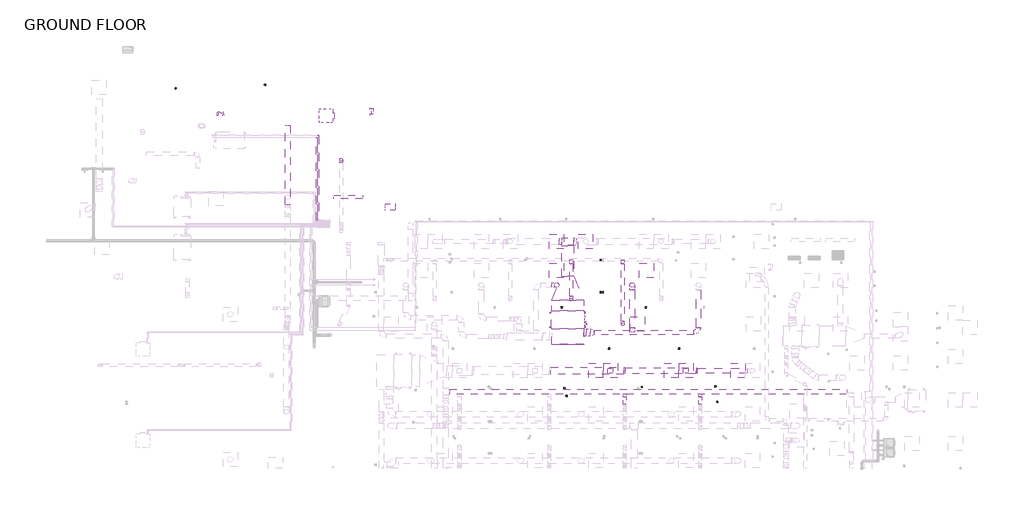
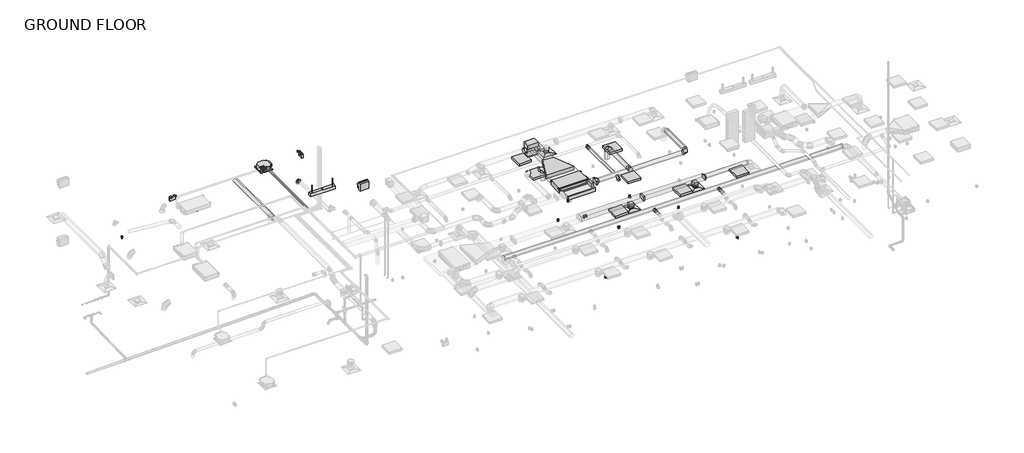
# One storey, part 18 of 22: 26 duct fittings, 24 duct segments, 11 light fixtures, 8 proxies, 4 electric appliances, 4 switching devices, 3 air terminals, 2 pipe fittings, 2 pipe segments.
"""IFC4 building model written with IfcOpenShell, lengths in millimetres."""

from ifc_helpers import new_model, si_unit, point, frame, frame_2d, origin, place, context, project, spatial, polyline, circle_curve, trimmed, segment, composite_curve, outline, extrude, transform, mapped, element, save
from components import air_terminal_e9020785, mechanical_equipment_d478180c, mechanical_equipment_2d84379e, duplex_receptacle_countertop_10251bba, rectangular_elbow_mitered_transition_standard_1af59134, rectangular_endcap_standard_3ad2bc23, rectangular_endcap_standard_fc39317d, rectangular_takeoff_standard_68f80ab3, rectangular_takeoff_standard_d07ea574, rectangular_transition_angle_45_degree_5314cfe0, rectangular_transition_angle_45_degree_4bc87dcf, rectangular_transition_angle_45_degree_1d311e81, rectangular_to_round_transition_angle_45_degree_8ccbb142, rectangular_to_round_transition_angle_45_degree_e9430680, rectangular_to_round_transition_angle_45_degree_5a025447, round_elbow_1_d_a253342a, round_elbow_1_d_c80420c1, round_takeoff_standard_272bb003, round_takeoff_standard_aff246af, round_takeoff_standard_5e8805d5, round_takeoff_standard_98831ccd, round_takeoff_standard_17dc06e3, telephone_outlet_data_plain_18c24199, emergency_wall_light_120v_37438f40, suspended_fluorescent_strip_non_hosted_strip_light_1x4_120v_5197bc21, troffer_corner_insert_2x2_3lamp_e67c7f8f, wall_pack_light_exterior_120v_ab60a804, elbow_generic_standard_738589b0, elbow_generic_standard_371413ad

model = new_model("IFC4")

# Units and contexts
model_context = context("Model", 3, world=origin())
ifc_project = project(units=[si_unit("LENGTHUNIT", "METRE", prefix="MILLI")], contexts=[model_context])

# Site, building, storey
site = spatial("IfcSite", under=ifc_project)
building = spatial("IfcBuilding", under=site)
storey = spatial("IfcBuildingStorey", under=building, Name="GROUND FLOOR", Elevation=30480.0)

# Air terminals
placement = place(None, origin())
air_terminal_shape = air_terminal_e9020785(model_context)
element("IfcAirTerminal", 1, ObjectType="Supply Diffuser - Rectangular Face Round Neck - Hosted : 24\"x24\" Face 8\" Neck - Hosted", at=placement, inside=storey, context=model_context, shape_type="MappedRepresentation", body=[
    mapped(air_terminal_shape, transform((2372.6795393, 1382.1195005, 33223.2), x_axis=(0.0, -1.0, 0.0), y_axis=(-1.0, 0.0, 0.0), z_axis=(0.0, 0.0, -1.0))),
])
element("IfcAirTerminal", 2, ObjectType="Supply Diffuser - Rectangular Face Round Neck - Hosted : 24\"x24\" Face 8\" Neck - Hosted", at=placement, inside=storey, context=model_context, shape_type="MappedRepresentation", body=[
    mapped(air_terminal_shape, transform((5544.5045393, 1382.1195005, 33223.2), x_axis=(0.0, -1.0, 0.0), y_axis=(-1.0, 0.0, 0.0), z_axis=(0.0, 0.0, -1.0))),
])
element("IfcAirTerminal", 3, ObjectType="Supply Diffuser - Rectangular Face Round Neck - Hosted : 24\"x24\" Face 8\" Neck - Hosted", at=placement, inside=storey, context=model_context, shape_type="MappedRepresentation", body=[
    mapped(air_terminal_shape, transform((1334.4545393, 6811.3695005, 33223.2), x_axis=(0.0, -1.0, 0.0), y_axis=(-1.0, 0.0, 0.0), z_axis=(0.0, 0.0, -1.0))),
])

# Proxies
mechanical_equipment_shape = mechanical_equipment_d478180c(model_context)
element("IfcBuildingElementProxy", 4, Name="PEFY-P-NMAU-E_Medium_Static_Ducted : PEFY-P48NMAU-E", ObjectType="PEFY-P-NMAU-E_Medium_Static_Ducted : PEFY-P48NMAU-E", at=placement, inside=storey, context=model_context, shape_type="MappedRepresentation", body=[
    mapped(mechanical_equipment_shape, transform((586.0058148, 3462.779527, 33788.35), x_axis=(1.0, 0.0, 0.0), y_axis=(0.0, 1.0, 0.0), z_axis=(0.0, 0.0, 1.0))),
])
mechanical_equipment_2_shape = mechanical_equipment_2d84379e(model_context)
element("IfcBuildingElementProxy", 5, Name="PLFY-P-NCMU-E_4-way_24x24 : PLFY-P12NCMU-E", ObjectType="PLFY-P-NCMU-E_4-way_24x24 : PLFY-P12NCMU-E", at=placement, inside=storey, context=model_context, shape_type="MappedRepresentation", body=[
    mapped(mechanical_equipment_2_shape, transform((-9643.7370237, 12098.6958297, 33020.0), x_axis=(0.0, -1.0, 0.0), y_axis=(-1.0, 0.0, 0.0), z_axis=(0.0, 0.0, -1.0))),
])
duplex_receptacle_countertop_shape = duplex_receptacle_countertop_10251bba(model_context)
element("IfcBuildingElementProxy", 6, Name="Duplex Receptacle : Countertop", ObjectType="Duplex Receptacle : Countertop", at=placement, inside=storey, context=model_context, shape_type="MappedRepresentation", body=[
    mapped(duplex_receptacle_countertop_shape, transform((2067.8795393, 4677.7695005, 30937.2), x_axis=(0.0, 1.0, 0.0), y_axis=(0.0, 0.0, 1.0), z_axis=(1.0, 0.0, 0.0))),
])
element("IfcBuildingElementProxy", 7, Name="Duplex Receptacle : Countertop", ObjectType="Duplex Receptacle : Countertop", at=placement, inside=storey, context=model_context, shape_type="MappedRepresentation", body=[
    mapped(duplex_receptacle_countertop_shape, transform((1944.0545393, 4677.7695005, 30937.2), x_axis=(0.0, -1.0, 0.0), y_axis=(0.0, 0.0, 1.0), z_axis=(-1.0, 0.0, 0.0))),
])
element("IfcBuildingElementProxy", 8, Name="Duplex Receptacle : Standard", ObjectType="Duplex Receptacle : Standard", at=placement, inside=storey, context=model_context, shape_type="MappedRepresentation", body=[
    mapped(duplex_receptacle_countertop_shape, transform((6887.5295393, 71.4994744, 30937.2), x_axis=(0.0, 1.0, 0.0), y_axis=(0.0, 0.0, 1.0), z_axis=(1.0, 0.0, 0.0))),
])
element("IfcBuildingElementProxy", 9, Name="Duplex Receptacle : Standard", ObjectType="Duplex Receptacle : Standard", at=placement, inside=storey, context=model_context, shape_type="MappedRepresentation", body=[
    mapped(duplex_receptacle_countertop_shape, transform((6763.7045393, 721.6502033, 30937.2), x_axis=(0.0, -1.0, 0.0), y_axis=(0.0, 0.0, 1.0), z_axis=(-1.0, 0.0, 0.0))),
])
element("IfcBuildingElementProxy", 10, Name="Duplex Receptacle : Standard", ObjectType="Duplex Receptacle : Standard", at=placement, inside=storey, context=model_context, shape_type="MappedRepresentation", body=[
    mapped(duplex_receptacle_countertop_shape, transform((420.0545393, 644.5136762, 30937.2), x_axis=(0.0, -1.0, 0.0), y_axis=(0.0, 0.0, 1.0), z_axis=(-1.0, 0.0, 0.0))),
])
element("IfcBuildingElementProxy", 11, Name="Duplex Receptacle : Standard", ObjectType="Duplex Receptacle : Standard", at=placement, inside=storey, context=model_context, shape_type="MappedRepresentation", body=[
    mapped(duplex_receptacle_countertop_shape, transform((543.8795393, 322.3410962, 30937.2), x_axis=(0.0, 1.0, 0.0), y_axis=(0.0, 0.0, 1.0), z_axis=(1.0, 0.0, 0.0))),
])

# Duct fittings
rectangular_elbow_mitered_transition_standard_shape = rectangular_elbow_mitered_transition_standard_1af59134(model_context)
element("IfcDuctFitting", 12, ObjectType="Rectangular Elbow - Mitered - Transition : Standard", at=placement, inside=storey, context=model_context, shape_type="MappedRepresentation", body=[
    mapped(rectangular_elbow_mitered_transition_standard_shape, transform((575.9935718, 6811.3695005, 33934.4), x_axis=(0.0, 1.0, 0.0), y_axis=(0.0, 0.0, -1.0), z_axis=(-1.0, 0.0, 0.0))),
])
rectangular_endcap_standard_shape = rectangular_endcap_standard_3ad2bc23(model_context)
element("IfcDuctFitting", 13, ObjectType="Rectangular Endcap : Standard", at=placement, inside=storey, context=model_context, shape_type="MappedRepresentation", body=[
    mapped(rectangular_endcap_standard_shape, transform((575.9935718, 2491.3229089, 33947.89375), x_axis=(0.0, -1.0, 0.0), y_axis=(1.0, 0.0, 0.0), z_axis=(0.0, 0.0, 1.0))),
])
rectangular_endcap_standard_2_shape = rectangular_endcap_standard_fc39317d(model_context)
element("IfcDuctFitting", 14, ObjectType="Rectangular Endcap : Standard", at=placement, inside=storey, context=model_context, shape_type="MappedRepresentation", body=[
    mapped(rectangular_endcap_standard_2_shape, transform((575.9935718, 6811.3695005, 33426.4), x_axis=(0.0, 0.0, -1.0), y_axis=(1.0, 0.0, 0.0), z_axis=(0.0, -1.0, 0.0))),
])
rectangular_takeoff_standard_shape = rectangular_takeoff_standard_68f80ab3(model_context)
element("IfcDuctFitting", 15, ObjectType="Rectangular Takeoff : Standard", at=placement, inside=storey, context=model_context, shape_type="MappedRepresentation", body=[
    mapped(rectangular_takeoff_standard_shape, transform((1253.8560718, 2984.6075456, 33947.89375), x_axis=(1.0, 0.0, 0.0), y_axis=(0.0, -1.0, 0.0), z_axis=(0.0, 0.0, -1.0))),
])
rectangular_takeoff_standard_2_shape = rectangular_takeoff_standard_d07ea574(model_context)
element("IfcDuctFitting", 16, ObjectType="Rectangular Takeoff : Standard", at=placement, inside=storey, context=model_context, shape_type="MappedRepresentation", body=[
    mapped(rectangular_takeoff_standard_2_shape, transform((5544.5045393, 1382.1195005, 33502.6), x_axis=(0.0, 0.0, -1.0), y_axis=(1.0, 0.0, 0.0), z_axis=(0.0, -1.0, 0.0))),
])
element("IfcDuctFitting", 17, ObjectType="Rectangular Takeoff : Standard", at=placement, inside=storey, context=model_context, shape_type="MappedRepresentation", body=[
    mapped(rectangular_takeoff_standard_2_shape, transform((2372.6795393, 1382.1195005, 33502.6), x_axis=(0.0, 0.0, -1.0), y_axis=(1.0, 0.0, 0.0), z_axis=(0.0, -1.0, 0.0))),
])
rectangular_transition_angle_45_degree_shape = rectangular_transition_angle_45_degree_5314cfe0(model_context)
element("IfcDuctFitting", 18, ObjectType="Rectangular Transition - Angle : 45 Degree", at=placement, inside=storey, context=model_context, shape_type="MappedRepresentation", body=[
    mapped(rectangular_transition_angle_45_degree_shape, transform((575.9935718, 4334.7022191, 33934.4), x_axis=(0.0, 1.0, 0.0), y_axis=(-1.0, 0.0, 0.0), z_axis=(0.0, 0.0, 1.0))),
])
rectangular_transition_angle_45_degree_2_shape = rectangular_transition_angle_45_degree_4bc87dcf(model_context)
element("IfcDuctFitting", 19, ObjectType="Rectangular Transition - Angle : 45 Degree", at=placement, inside=storey, context=model_context, shape_type="MappedRepresentation", body=[
    mapped(rectangular_transition_angle_45_degree_2_shape, transform((575.9935718, 3891.404527, 33934.4), x_axis=(0.0, 1.0, 0.0), y_axis=(-1.0, 0.0, 0.0), z_axis=(0.0, 0.0, 1.0))),
])
rectangular_transition_angle_45_degree_3_shape = rectangular_transition_angle_45_degree_1d311e81(model_context)
element("IfcDuctFitting", 20, ObjectType="Rectangular Transition - Angle : 45 Degree", at=placement, inside=storey, context=model_context, shape_type="MappedRepresentation", body=[
    mapped(rectangular_transition_angle_45_degree_3_shape, transform((2934.6545393, 1382.1195005, 33604.2), x_axis=(1.0, 0.0, 0.0), y_axis=(0.0, 1.0, 0.0), z_axis=(0.0, 0.0, 1.0))),
])
rectangular_to_round_transition_angle_45_degree_shape = rectangular_to_round_transition_angle_45_degree_8ccbb142(model_context)
element("IfcDuctFitting", 21, ObjectType="Rectangular to Round Transition - Angle : 45 Degree", at=placement, inside=storey, context=model_context, shape_type="MappedRepresentation", body=[
    mapped(rectangular_to_round_transition_angle_45_degree_shape, transform((1530.4019781, 2984.6075456, 33947.89375), x_axis=(1.0, 0.0, 0.0), y_axis=(0.0, 1.0, 0.0), z_axis=(0.0, 0.0, 1.0))),
])
rectangular_to_round_transition_angle_45_degree_2_shape = rectangular_to_round_transition_angle_45_degree_e9430680(model_context)
element("IfcDuctFitting", 22, ObjectType="Rectangular to Round Transition - Angle : 45 Degree", at=placement, inside=storey, context=model_context, shape_type="MappedRepresentation", body=[
    mapped(rectangular_to_round_transition_angle_45_degree_2_shape, transform((5972.1335148, 1382.1195005, 33604.2), x_axis=(1.0, 0.0, 0.0), y_axis=(0.0, 1.0, 0.0), z_axis=(0.0, 0.0, 1.0))),
])
rectangular_to_round_transition_angle_45_degree_3_shape = rectangular_to_round_transition_angle_45_degree_5a025447(model_context)
element("IfcDuctFitting", 23, ObjectType="Rectangular to Round Transition - Angle : 45 Degree", at=placement, inside=storey, context=model_context, shape_type="MappedRepresentation", body=[
    mapped(rectangular_to_round_transition_angle_45_degree_3_shape, transform((5544.5045393, 1382.1195005, 33327.975), x_axis=(0.0, 0.0, -1.0), y_axis=(1.0, 0.0, 0.0), z_axis=(0.0, -1.0, 0.0))),
])
element("IfcDuctFitting", 24, ObjectType="Rectangular to Round Transition - Angle : 45 Degree", at=placement, inside=storey, context=model_context, shape_type="MappedRepresentation", body=[
    mapped(rectangular_to_round_transition_angle_45_degree_3_shape, transform((2372.6795393, 1382.1195005, 33327.975), x_axis=(0.0, 0.0, -1.0), y_axis=(1.0, 0.0, 0.0), z_axis=(0.0, -1.0, 0.0))),
])
round_elbow_1_d_shape = round_elbow_1_d_a253342a(model_context)
element("IfcDuctFitting", 25, ObjectType="Round Elbow : 1 D", at=placement, inside=storey, context=model_context, shape_type="MappedRepresentation", body=[
    mapped(round_elbow_1_d_shape, transform((115.2545393, 4982.5695005, 33947.89375), x_axis=(0.0, 0.0, 1.0), y_axis=(-1.0, 0.0, 0.0), z_axis=(0.0, -1.0, 0.0))),
])
element("IfcDuctFitting", 26, ObjectType="Round Elbow : 1 D", at=placement, inside=storey, context=model_context, shape_type="MappedRepresentation", body=[
    mapped(round_elbow_1_d_shape, transform((3287.0795393, 4982.5695005, 33947.89375), x_axis=(0.0, 0.0, 1.0), y_axis=(0.0, -1.0, 0.0), z_axis=(1.0, 0.0, 0.0))),
])
element("IfcDuctFitting", 27, ObjectType="Round Elbow : 1 D", at=placement, inside=storey, context=model_context, shape_type="MappedRepresentation", body=[
    mapped(round_elbow_1_d_shape, transform((6077.9045393, 2984.6075456, 33947.89375), x_axis=(1.0, 0.0, 0.0), y_axis=(0.0, 1.0, 0.0), z_axis=(0.0, 0.0, 1.0))),
])
round_elbow_1_d_2_shape = round_elbow_1_d_c80420c1(model_context)
element("IfcDuctFitting", 28, ObjectType="Round Elbow : 1 D", at=placement, inside=storey, context=model_context, shape_type="MappedRepresentation", body=[
    mapped(round_elbow_1_d_2_shape, transform((2896.5545393, 3334.7445005, 33464.5), x_axis=(0.0, -1.0, 0.0), y_axis=(0.0, 0.0, -1.0), z_axis=(1.0, 0.0, 0.0))),
])
element("IfcDuctFitting", 29, ObjectType="Round Elbow : 1 D", at=placement, inside=storey, context=model_context, shape_type="MappedRepresentation", body=[
    mapped(round_elbow_1_d_2_shape, transform((724.8545393, 4372.9695005, 33464.5), x_axis=(0.0, -1.0, 0.0), y_axis=(0.0, 0.0, -1.0), z_axis=(1.0, 0.0, 0.0))),
])
element("IfcDuctFitting", 30, ObjectType="Round Elbow : 1 D", at=placement, inside=storey, context=model_context, shape_type="MappedRepresentation", body=[
    mapped(round_elbow_1_d_2_shape, transform((-8950.9579607, 10246.7195005, 33324.8), x_axis=(0.0, 0.0, 1.0), y_axis=(0.0, -1.0, 0.0), z_axis=(1.0, 0.0, 0.0))),
])
round_takeoff_standard_shape = round_takeoff_standard_272bb003(model_context)
element("IfcDuctFitting", 31, ObjectType="Round Takeoff : Standard", at=placement, inside=storey, context=model_context, shape_type="MappedRepresentation", body=[
    mapped(round_takeoff_standard_shape, transform((2982.2795393, 391.7414929, 33528.0), x_axis=(0.0, -1.0, 0.0), y_axis=(-1.0, 0.0, 0.0), z_axis=(0.0, 0.0, -1.0))),
])
element("IfcDuctFitting", 32, ObjectType="Round Takeoff : Standard", at=placement, inside=storey, context=model_context, shape_type="MappedRepresentation", body=[
    mapped(round_takeoff_standard_shape, transform((6154.1045393, 391.7414929, 33528.0), x_axis=(0.0, -1.0, 0.0), y_axis=(-1.0, 0.0, 0.0), z_axis=(0.0, 0.0, -1.0))),
])
round_takeoff_standard_2_shape = round_takeoff_standard_aff246af(model_context)
element("IfcDuctFitting", 33, ObjectType="Round Takeoff : Standard", at=placement, inside=storey, context=model_context, shape_type="MappedRepresentation", body=[
    mapped(round_takeoff_standard_2_shape, transform((3287.0795393, 3086.2075456, 33947.89375), x_axis=(0.0, 1.0, 0.0), y_axis=(1.0, 0.0, 0.0), z_axis=(0.0, 0.0, -1.0))),
])
round_takeoff_standard_3_shape = round_takeoff_standard_5e8805d5(model_context)
element("IfcDuctFitting", 34, ObjectType="Round Takeoff : Standard", at=placement, inside=storey, context=model_context, shape_type="MappedRepresentation", body=[
    mapped(round_takeoff_standard_3_shape, transform((829.9935718, 6811.3695005, 33629.6), x_axis=(1.0, 0.0, 0.0), y_axis=(0.0, 0.0, 1.0), z_axis=(0.0, -1.0, 0.0))),
])
round_takeoff_standard_4_shape = round_takeoff_standard_98831ccd(model_context)
element("IfcDuctFitting", 35, ObjectType="Round Takeoff : Standard", at=placement, inside=storey, context=model_context, shape_type="MappedRepresentation", body=[
    mapped(round_takeoff_standard_4_shape, transform((321.9935718, 6811.3695005, 33680.0490295), x_axis=(-1.0, 0.0, 0.0), y_axis=(0.0, 0.0, 1.0), z_axis=(0.0, 1.0, 0.0))),
])
round_takeoff_standard_5_shape = round_takeoff_standard_17dc06e3(model_context)
element("IfcDuctFitting", 36, ObjectType="Round Takeoff : Standard", at=placement, inside=storey, context=model_context, shape_type="MappedRepresentation", body=[
    mapped(round_takeoff_standard_5_shape, transform((2896.5545393, 5985.8695005, 33464.5), x_axis=(0.0, -1.0, 0.0), y_axis=(-1.0, 0.0, 0.0), z_axis=(0.0, 0.0, -1.0))),
])
element("IfcDuctFitting", 37, ObjectType="Round Takeoff : Standard", at=placement, inside=storey, context=model_context, shape_type="MappedRepresentation", body=[
    mapped(round_takeoff_standard_5_shape, transform((724.8545393, 5985.8695005, 33464.5), x_axis=(0.0, -1.0, 0.0), y_axis=(-1.0, 0.0, 0.0), z_axis=(0.0, 0.0, -1.0))),
])

# Duct segments
element("IfcDuctSegment", 38, ObjectType="Mitered Elbows / Taps", at=placement, inside=storey, context=model_context, shape_type="SweptSolid", body=[
    extrude(outline(polyline([(-128.2244362, 1229.7195005), (-128.2244362, 1534.5195005), (2934.6545393, 1534.5195005), (2934.6545393, 1229.7195005), (-128.2244362, 1229.7195005)])), frame((0.0, 0.0, 33502.6), z_axis=(0.0, 0.0, 1.0), x_axis=(1.0, 0.0, 0.0)), (0.0, 0.0, 1.0), 203.2),
])
element("IfcDuctSegment", 39, ObjectType="Mitered Elbows / Taps", at=placement, inside=storey, context=model_context, shape_type="SweptSolid", body=[
    extrude(outline(polyline([(2995.9755638, 1255.1195005), (2995.9755638, 1509.1195005), (5972.1335148, 1509.1195005), (5972.1335148, 1255.1195005), (2995.9755638, 1255.1195005)])), frame((0.0, 0.0, 33502.6), z_axis=(0.0, 0.0, 1.0), x_axis=(1.0, 0.0, 0.0)), (0.0, 0.0, 1.0), 203.2),
])
element("IfcDuctSegment", 40, ObjectType="Mitered Elbows / Taps", at=placement, inside=storey, context=model_context, shape_type="SweptSolid", body=[
    extrude(outline(polyline([(5442.9045393, 1483.7195005), (5646.1045393, 1483.7195005), (5646.1045393, 1280.5195005), (5442.9045393, 1280.5195005), (5442.9045393, 1483.7195005)])), frame((0.0, 0.0, 33327.975), z_axis=(0.0, 0.0, 1.0), x_axis=(1.0, 0.0, 0.0)), (0.0, 0.0, 1.0), 73.025),
])
element("IfcDuctSegment", 41, ObjectType="Mitered Elbows / Taps", at=placement, inside=storey, context=model_context, shape_type="SweptSolid", body=[
    extrude(outline(polyline([(2271.0795393, 1483.7195005), (2474.2795393, 1483.7195005), (2474.2795393, 1280.5195005), (2271.0795393, 1280.5195005), (2271.0795393, 1483.7195005)])), frame((0.0, 0.0, 33327.975), z_axis=(0.0, 0.0, 1.0), x_axis=(1.0, 0.0, 0.0)), (0.0, 0.0, 1.0), 73.025),
])
element("IfcDuctSegment", 42, ObjectType="Mitered Elbows / Taps", at=placement, inside=storey, context=model_context, shape_type="SweptSolid", body=[
    extrude(outline(polyline([(829.9935718, 5346.4991231), (321.9935718, 5346.4991231), (321.9935718, 6633.5695005), (829.9935718, 6633.5695005), (829.9935718, 5346.4991231)])), frame((0.0, 0.0, 33832.8), z_axis=(0.0, 0.0, 1.0), x_axis=(1.0, 0.0, 0.0)), (0.0, 0.0, 1.0), 203.2),
])
element("IfcDuctSegment", 43, ObjectType="Mitered Elbows / Taps", at=placement, inside=storey, context=model_context, shape_type="SweptSolid", body=[
    extrude(outline(polyline([(829.9935718, 6963.7695005), (829.9935718, 6658.9695005), (321.9935718, 6658.9695005), (321.9935718, 6963.7695005), (829.9935718, 6963.7695005)])), frame((0.0, 0.0, 33426.4), z_axis=(0.0, 0.0, 1.0), x_axis=(1.0, 0.0, 0.0)), (0.0, 0.0, 1.0), 381.0),
])
element("IfcDuctSegment", 44, ObjectType="Mitered Elbows / Taps", at=placement, inside=storey, context=model_context, shape_type="SweptSolid", body=[
    extrude(outline(polyline([(1530.4019781, 3149.7075456), (1530.4019781, 2819.5075456), (1355.4560718, 2819.5075456), (1355.4560718, 3149.7075456), (1530.4019781, 3149.7075456)])), frame((0.0, 0.0, 33858.99375), z_axis=(0.0, 0.0, 1.0), x_axis=(1.0, 0.0, 0.0)), (0.0, 0.0, 1.0), 177.8),
])
element("IfcDuctSegment", 45, ObjectType="Mitered Elbows / Taps", at=placement, inside=storey, context=model_context, shape_type="SweptSolid", body=[
    extrude(outline(polyline([(1249.0935718, 3902.9022191), (-97.1064282, 3902.9022191), (-97.1064282, 4334.7022191), (1249.0935718, 4334.7022191), (1249.0935718, 3902.9022191)])), frame((0.0, 0.0, 33832.8), z_axis=(0.0, 0.0, 1.0), x_axis=(1.0, 0.0, 0.0)), (0.0, 0.0, 1.0), 203.2),
])
element("IfcDuctSegment", 46, ObjectType="Mitered Elbows / Tees", at=placement, inside=storey, context=model_context, shape_type="SweptSolid", body=[
    extrude(outline(polyline([(-101.8689282, 3145.279527), (1253.8560718, 3145.279527), (1253.8560718, 2491.3229089), (-101.8689282, 2491.3229089), (-101.8689282, 3145.279527)])), frame((0.0, 0.0, 33858.2), z_axis=(0.0, 0.0, 1.0), x_axis=(1.0, 0.0, 0.0)), (0.0, 0.0, 1.0), 179.3875),
])
element("IfcDuctSegment", 47, ObjectType="Taps / Short Radius", at=placement, inside=storey, context=model_context, shape_type="SweptSolid", body=[
    extrude(outline(composite_curve([segment(trimmed(circle_curve(frame_2d((33197.8, -11194.8892107)), 101.6), [point((33197.8, -11296.4892107))], [point((33096.2, -11194.8892107))], False, "CARTESIAN"), True, "CONTINUOUS"), segment(trimmed(circle_curve(frame_2d((33197.8, -11194.8892107)), 101.6), [point((33096.2, -11194.8892107))], [point((33197.8, -11093.2892107))], False, "CARTESIAN"), True, "CONTINUOUS"), segment(trimmed(circle_curve(frame_2d((33197.8, -11194.8892107)), 101.6), [point((33197.8, -11093.2892107))], [point((33299.4, -11194.8892107))], False, "CARTESIAN"), True, "CONTINUOUS"), segment(trimmed(circle_curve(frame_2d((33197.8, -11194.8892107)), 101.6), [point((33299.4, -11194.8892107))], [point((33197.8, -11296.4892107))], False, "CARTESIAN"), True, "CONTINUOUS")], self_intersect=False)), frame((0.0, 8356.2539246, 0.0), z_axis=(0.0, 1.0, 0.0), x_axis=(0.0, 0.0, 1.0)), (0.0, 0.0, 1.0), 3343.0588376),
])
element("IfcDuctSegment", 48, ObjectType="Taps / Short Radius", at=placement, inside=storey, context=model_context, shape_type="SweptSolid", body=[
    extrude(outline(composite_curve([segment(trimmed(circle_curve(frame_2d((1382.1195005, 33604.2)), 101.6), [point((1483.7195005, 33604.2))], [point((1382.1195005, 33502.6))], False, "CARTESIAN"), True, "CONTINUOUS"), segment(trimmed(circle_curve(frame_2d((1382.1195005, 33604.2)), 101.6), [point((1382.1195005, 33502.6))], [point((1280.5195005, 33604.2))], False, "CARTESIAN"), True, "CONTINUOUS"), segment(trimmed(circle_curve(frame_2d((1382.1195005, 33604.2)), 101.6), [point((1280.5195005, 33604.2))], [point((1382.1195005, 33705.8))], False, "CARTESIAN"), True, "CONTINUOUS"), segment(trimmed(circle_curve(frame_2d((1382.1195005, 33604.2)), 101.6), [point((1382.1195005, 33705.8))], [point((1483.7195005, 33604.2))], False, "CARTESIAN"), True, "CONTINUOUS")], self_intersect=False)), frame((6033.4545393, 0.0, 0.0), z_axis=(1.0, 0.0, 0.0), x_axis=(0.0, 1.0, 0.0)), (0.0, 0.0, 1.0), 2098.675),
])
element("IfcDuctSegment", 49, ObjectType="Taps / Short Radius", at=placement, inside=storey, context=model_context, shape_type="SweptSolid", body=[
    extrude(outline(composite_curve([segment(trimmed(circle_curve(frame_2d((115.2545393, 4982.5695005)), 101.6), [point((115.2545393, 5084.1695005))], [point((216.8545393, 4982.5695005))], False, "CARTESIAN"), True, "CONTINUOUS"), segment(trimmed(circle_curve(frame_2d((115.2545393, 4982.5695005)), 101.6), [point((216.8545393, 4982.5695005))], [point((115.2545393, 4880.9695005))], False, "CARTESIAN"), True, "CONTINUOUS"), segment(trimmed(circle_curve(frame_2d((115.2545393, 4982.5695005)), 101.6), [point((115.2545393, 4880.9695005))], [point((13.6545393, 4982.5695005))], False, "CARTESIAN"), True, "CONTINUOUS"), segment(trimmed(circle_curve(frame_2d((115.2545393, 4982.5695005)), 101.6), [point((13.6545393, 4982.5695005))], [point((115.2545393, 5084.1695005))], False, "CARTESIAN"), True, "CONTINUOUS")], self_intersect=False)), frame((0.0, 0.0, 33324.8), z_axis=(0.0, 0.0, 1.0), x_axis=(1.0, 0.0, 0.0)), (0.0, 0.0, 1.0), 419.89375),
])
element("IfcDuctSegment", 50, ObjectType="Taps / Short Radius", at=placement, inside=storey, context=model_context, shape_type="SweptSolid", body=[
    extrude(outline(composite_curve([segment(trimmed(circle_curve(frame_2d((2984.6075456, 33947.89375)), 101.6), [point((3086.2075456, 33947.89375))], [point((2984.6075456, 33846.29375))], False, "CARTESIAN"), True, "CONTINUOUS"), segment(trimmed(circle_curve(frame_2d((2984.6075456, 33947.89375)), 101.6), [point((2984.6075456, 33846.29375))], [point((2883.0075456, 33947.89375))], False, "CARTESIAN"), True, "CONTINUOUS"), segment(trimmed(circle_curve(frame_2d((2984.6075456, 33947.89375)), 101.6), [point((2883.0075456, 33947.89375))], [point((2984.6075456, 34049.49375))], False, "CARTESIAN"), True, "CONTINUOUS"), segment(trimmed(circle_curve(frame_2d((2984.6075456, 33947.89375)), 101.6), [point((2984.6075456, 34049.49375))], [point((3086.2075456, 33947.89375))], False, "CARTESIAN"), True, "CONTINUOUS")], self_intersect=False)), frame((1683.7045393, 0.0, 0.0), z_axis=(1.0, 0.0, 0.0), x_axis=(0.0, 1.0, 0.0)), (0.0, 0.0, 1.0), 4191.0),
])
element("IfcDuctSegment", 51, ObjectType="Taps / Short Radius", at=placement, inside=storey, context=model_context, shape_type="SweptSolid", body=[
    extrude(outline(composite_curve([segment(trimmed(circle_curve(frame_2d((33947.89375, 6077.9045393)), 101.6), [point((33947.89375, 5976.3045393))], [point((33846.29375, 6077.9045393))], False, "CARTESIAN"), True, "CONTINUOUS"), segment(trimmed(circle_curve(frame_2d((33947.89375, 6077.9045393)), 101.6), [point((33846.29375, 6077.9045393))], [point((33947.89375, 6179.5045393))], False, "CARTESIAN"), True, "CONTINUOUS"), segment(trimmed(circle_curve(frame_2d((33947.89375, 6077.9045393)), 101.6), [point((33947.89375, 6179.5045393))], [point((34049.49375, 6077.9045393))], False, "CARTESIAN"), True, "CONTINUOUS"), segment(trimmed(circle_curve(frame_2d((33947.89375, 6077.9045393)), 101.6), [point((34049.49375, 6077.9045393))], [point((33947.89375, 5976.3045393))], False, "CARTESIAN"), True, "CONTINUOUS")], self_intersect=False)), frame((0.0, 3187.8075456, 0.0), z_axis=(0.0, 1.0, 0.0), x_axis=(0.0, 0.0, 1.0)), (0.0, 0.0, 1.0), 1591.5619549),
])
element("IfcDuctSegment", 52, ObjectType="Taps / Short Radius", at=placement, inside=storey, context=model_context, shape_type="SweptSolid", body=[
    extrude(outline(composite_curve([segment(trimmed(circle_curve(frame_2d((33947.89375, 3287.0795393)), 101.6), [point((33947.89375, 3185.4795393))], [point((33846.29375, 3287.0795393))], False, "CARTESIAN"), True, "CONTINUOUS"), segment(trimmed(circle_curve(frame_2d((33947.89375, 3287.0795393)), 101.6), [point((33846.29375, 3287.0795393))], [point((33947.89375, 3388.6795393))], False, "CARTESIAN"), True, "CONTINUOUS"), segment(trimmed(circle_curve(frame_2d((33947.89375, 3287.0795393)), 101.6), [point((33947.89375, 3388.6795393))], [point((34049.49375, 3287.0795393))], False, "CARTESIAN"), True, "CONTINUOUS"), segment(trimmed(circle_curve(frame_2d((33947.89375, 3287.0795393)), 101.6), [point((34049.49375, 3287.0795393))], [point((33947.89375, 3185.4795393))], False, "CARTESIAN"), True, "CONTINUOUS")], self_intersect=False)), frame((0.0, 3187.8075456, 0.0), z_axis=(0.0, 1.0, 0.0), x_axis=(0.0, 0.0, 1.0)), (0.0, 0.0, 1.0), 1591.5619549),
])
element("IfcDuctSegment", 53, ObjectType="Taps / Short Radius", at=placement, inside=storey, context=model_context, shape_type="SweptSolid", body=[
    extrude(outline(composite_curve([segment(trimmed(circle_curve(frame_2d((3287.0795393, 4982.5695005)), 101.6), [point((3185.4795393, 4982.5695005))], [point((3287.0795393, 5084.1695005))], False, "CARTESIAN"), True, "CONTINUOUS"), segment(trimmed(circle_curve(frame_2d((3287.0795393, 4982.5695005)), 101.6), [point((3287.0795393, 5084.1695005))], [point((3388.6795393, 4982.5695005))], False, "CARTESIAN"), True, "CONTINUOUS"), segment(trimmed(circle_curve(frame_2d((3287.0795393, 4982.5695005)), 101.6), [point((3388.6795393, 4982.5695005))], [point((3287.0795393, 4880.9695005))], False, "CARTESIAN"), True, "CONTINUOUS"), segment(trimmed(circle_curve(frame_2d((3287.0795393, 4982.5695005)), 101.6), [point((3287.0795393, 4880.9695005))], [point((3185.4795393, 4982.5695005))], False, "CARTESIAN"), True, "CONTINUOUS")], self_intersect=False)), frame((0.0, 0.0, 33324.8), z_axis=(0.0, 0.0, 1.0), x_axis=(1.0, 0.0, 0.0)), (0.0, 0.0, 1.0), 419.89375),
])
element("IfcDuctSegment", 54, ObjectType="Taps / Short Radius", at=placement, inside=storey, context=model_context, shape_type="SweptSolid", body=[
    extrude(outline(composite_curve([segment(trimmed(circle_curve(frame_2d((0.0, 63.5)), 63.5), [point((-63.5, 63.5))], [point((0.0, 127.0))], False, "CARTESIAN"), True, "CONTINUOUS"), segment(trimmed(circle_curve(frame_2d((0.0, 63.5)), 63.5), [point((0.0, 127.0))], [point((63.5, 63.5))], False, "CARTESIAN"), True, "CONTINUOUS"), segment(trimmed(circle_curve(frame_2d((0.0, 63.5)), 63.5), [point((63.5, 63.5))], [point((0.0, 0.0))], False, "CARTESIAN"), True, "CONTINUOUS"), segment(trimmed(circle_curve(frame_2d((0.0, 63.5)), 63.5), [point((0.0, 0.0))], [point((-63.5, 63.5))], False, "CARTESIAN"), True, "CONTINUOUS")], self_intersect=False)), frame((2896.5545393, 3271.2445005, 33324.8), z_axis=(0.0, -1.0231815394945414e-12, 1.0), x_axis=(1.0, 0.0, 0.0)), (0.0, 0.0, 1.0), 12.7),
])
element("IfcDuctSegment", 55, ObjectType="Taps / Short Radius", at=placement, inside=storey, context=model_context, shape_type="SweptSolid", body=[
    extrude(outline(composite_curve([segment(trimmed(circle_curve(frame_2d((33464.5, 2896.5545393)), 63.5), [point((33464.5, 2833.0545393))], [point((33401.0, 2896.5545393))], False, "CARTESIAN"), True, "CONTINUOUS"), segment(trimmed(circle_curve(frame_2d((33464.5, 2896.5545393)), 63.5), [point((33401.0, 2896.5545393))], [point((33464.5, 2960.0545393))], False, "CARTESIAN"), True, "CONTINUOUS"), segment(trimmed(circle_curve(frame_2d((33464.5, 2896.5545393)), 63.5), [point((33464.5, 2960.0545393))], [point((33528.0, 2896.5545393))], False, "CARTESIAN"), True, "CONTINUOUS"), segment(trimmed(circle_curve(frame_2d((33464.5, 2896.5545393)), 63.5), [point((33528.0, 2896.5545393))], [point((33464.5, 2833.0545393))], False, "CARTESIAN"), True, "CONTINUOUS")], self_intersect=False)), frame((0.0, 3461.7445005, 0.0), z_axis=(0.0, 1.0, 0.0), x_axis=(0.0, 0.0, 1.0)), (0.0, 0.0, 1.0), 2422.525),
])
element("IfcDuctSegment", 56, ObjectType="Taps / Short Radius", at=placement, inside=storey, context=model_context, shape_type="SweptSolid", body=[
    extrude(outline(composite_curve([segment(trimmed(circle_curve(frame_2d((0.0, 63.5)), 63.5), [point((-63.5, 63.5))], [point((0.0, 127.0))], False, "CARTESIAN"), True, "CONTINUOUS"), segment(trimmed(circle_curve(frame_2d((0.0, 63.5)), 63.5), [point((0.0, 127.0))], [point((63.5, 63.5))], False, "CARTESIAN"), True, "CONTINUOUS"), segment(trimmed(circle_curve(frame_2d((0.0, 63.5)), 63.5), [point((63.5, 63.5))], [point((0.0, 0.0))], False, "CARTESIAN"), True, "CONTINUOUS"), segment(trimmed(circle_curve(frame_2d((0.0, 63.5)), 63.5), [point((0.0, 0.0))], [point((-63.5, 63.5))], False, "CARTESIAN"), True, "CONTINUOUS")], self_intersect=False)), frame((724.8545393, 4309.4695005, 33324.8), z_axis=(0.0, -1.0231815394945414e-12, 1.0), x_axis=(1.0, 0.0, 0.0)), (0.0, 0.0, 1.0), 12.7),
])
element("IfcDuctSegment", 57, ObjectType="Taps / Short Radius", at=placement, inside=storey, context=model_context, shape_type="SweptSolid", body=[
    extrude(outline(composite_curve([segment(trimmed(circle_curve(frame_2d((33464.5, 724.8545393)), 63.5), [point((33464.5, 661.3545393))], [point((33401.0, 724.8545393))], False, "CARTESIAN"), True, "CONTINUOUS"), segment(trimmed(circle_curve(frame_2d((33464.5, 724.8545393)), 63.5), [point((33401.0, 724.8545393))], [point((33464.5, 788.3545393))], False, "CARTESIAN"), True, "CONTINUOUS"), segment(trimmed(circle_curve(frame_2d((33464.5, 724.8545393)), 63.5), [point((33464.5, 788.3545393))], [point((33528.0, 724.8545393))], False, "CARTESIAN"), True, "CONTINUOUS"), segment(trimmed(circle_curve(frame_2d((33464.5, 724.8545393)), 63.5), [point((33528.0, 724.8545393))], [point((33464.5, 661.3545393))], False, "CARTESIAN"), True, "CONTINUOUS")], self_intersect=False)), frame((0.0, 4499.9695005, 0.0), z_axis=(0.0, 1.0, 0.0), x_axis=(0.0, 0.0, 1.0)), (0.0, 0.0, 1.0), 1384.3),
])
element("IfcDuctSegment", 58, ObjectType="Taps / Short Radius", at=placement, inside=storey, context=model_context, shape_type="SweptSolid", body=[
    extrude(outline(composite_curve([segment(trimmed(circle_curve(frame_2d((-8950.9579607, 10246.7195005)), 63.5), [point((-9014.4579607, 10246.7195005))], [point((-8950.9579607, 10310.2195005))], False, "CARTESIAN"), True, "CONTINUOUS"), segment(trimmed(circle_curve(frame_2d((-8950.9579607, 10246.7195005)), 63.5), [point((-8950.9579607, 10310.2195005))], [point((-8887.4579607, 10246.7195005))], False, "CARTESIAN"), True, "CONTINUOUS"), segment(trimmed(circle_curve(frame_2d((-8950.9579607, 10246.7195005)), 63.5), [point((-8887.4579607, 10246.7195005))], [point((-8950.9579607, 10183.2195005))], False, "CARTESIAN"), True, "CONTINUOUS"), segment(trimmed(circle_curve(frame_2d((-8950.9579607, 10246.7195005)), 63.5), [point((-8950.9579607, 10183.2195005))], [point((-9014.4579607, 10246.7195005))], False, "CARTESIAN"), True, "CONTINUOUS")], self_intersect=False)), frame((0.0, 0.0, 33121.6), z_axis=(0.0, 0.0, 1.0), x_axis=(1.0, 0.0, 0.0)), (0.0, 0.0, 1.0), 76.2),
])
element("IfcDuctSegment", 59, ObjectType="Taps / Short Radius", at=placement, inside=storey, context=model_context, shape_type="SweptSolid", body=[
    extrude(outline(composite_curve([segment(trimmed(circle_curve(frame_2d((493.3414929, 33528.0)), 101.6), [point((594.9414929, 33528.0))], [point((493.3414929, 33426.4))], False, "CARTESIAN"), True, "CONTINUOUS"), segment(trimmed(circle_curve(frame_2d((493.3414929, 33528.0)), 101.6), [point((493.3414929, 33426.4))], [point((391.7414929, 33528.0))], False, "CARTESIAN"), True, "CONTINUOUS"), segment(trimmed(circle_curve(frame_2d((493.3414929, 33528.0)), 101.6), [point((391.7414929, 33528.0))], [point((493.3414929, 33629.6))], False, "CARTESIAN"), True, "CONTINUOUS"), segment(trimmed(circle_curve(frame_2d((493.3414929, 33528.0)), 101.6), [point((493.3414929, 33629.6))], [point((594.9414929, 33528.0))], False, "CARTESIAN"), True, "CONTINUOUS")], self_intersect=False)), frame((-4389.576464, 0.0, 0.0), z_axis=(1.0, 0.0, 0.0), x_axis=(0.0, 1.0, 0.0)), (0.0, 0.0, 1.0), 16693.6560033),
])
element("IfcDuctSegment", 60, ObjectType="Taps / Short Radius", at=placement, inside=storey, context=model_context, shape_type="SweptSolid", body=[
    extrude(outline(composite_curve([segment(trimmed(circle_curve(frame_2d((33528.0, 2982.2795393)), 63.5), [point((33528.0, 3045.7795393))], [point((33591.5, 2982.2795393))], False, "CARTESIAN"), True, "CONTINUOUS"), segment(trimmed(circle_curve(frame_2d((33528.0, 2982.2795393)), 63.5), [point((33591.5, 2982.2795393))], [point((33528.0, 2918.7795393))], False, "CARTESIAN"), True, "CONTINUOUS"), segment(trimmed(circle_curve(frame_2d((33528.0, 2982.2795393)), 63.5), [point((33528.0, 2918.7795393))], [point((33464.5, 2982.2795393))], False, "CARTESIAN"), True, "CONTINUOUS"), segment(trimmed(circle_curve(frame_2d((33528.0, 2982.2795393)), 63.5), [point((33464.5, 2982.2795393))], [point((33528.0, 3045.7795393))], False, "CARTESIAN"), True, "CONTINUOUS")], self_intersect=False)), frame((0.0, -23.6803249, 0.0), z_axis=(0.0, 1.0, 0.0), x_axis=(0.0, 0.0, 1.0)), (0.0, 0.0, 1.0), 313.8218179),
])
element("IfcDuctSegment", 61, ObjectType="Taps / Short Radius", at=placement, inside=storey, context=model_context, shape_type="SweptSolid", body=[
    extrude(outline(composite_curve([segment(trimmed(circle_curve(frame_2d((33528.0, 6154.1045393)), 63.5), [point((33528.0, 6217.6045393))], [point((33591.5, 6154.1045393))], False, "CARTESIAN"), True, "CONTINUOUS"), segment(trimmed(circle_curve(frame_2d((33528.0, 6154.1045393)), 63.5), [point((33591.5, 6154.1045393))], [point((33528.0, 6090.6045393))], False, "CARTESIAN"), True, "CONTINUOUS"), segment(trimmed(circle_curve(frame_2d((33528.0, 6154.1045393)), 63.5), [point((33528.0, 6090.6045393))], [point((33464.5, 6154.1045393))], False, "CARTESIAN"), True, "CONTINUOUS"), segment(trimmed(circle_curve(frame_2d((33528.0, 6154.1045393)), 63.5), [point((33464.5, 6154.1045393))], [point((33528.0, 6217.6045393))], False, "CARTESIAN"), True, "CONTINUOUS")], self_intersect=False)), frame((0.0, -23.6803249, 0.0), z_axis=(0.0, 1.0, 0.0), x_axis=(0.0, 0.0, 1.0)), (0.0, 0.0, 1.0), 313.8218179),
])

# Electric appliances
telephone_outlet_data_plain_shape = telephone_outlet_data_plain_18c24199(model_context)
element("IfcElectricAppliance", 62, ObjectType="Telephone Outlet - Data : Plain", at=placement, inside=storey, context=model_context, shape_type="MappedRepresentation", body=[
    mapped(telephone_outlet_data_plain_shape, transform((1944.0545393, 5160.6139987, 30079.95), x_axis=(0.0, -1.0, 0.0), y_axis=(0.0, 0.0, 1.0), z_axis=(-1.0, 0.0, 0.0))),
])
element("IfcElectricAppliance", 63, ObjectType="Telephone Outlet - Data : Plain", at=placement, inside=storey, context=model_context, shape_type="MappedRepresentation", body=[
    mapped(telephone_outlet_data_plain_shape, transform((3715.7045393, 1574.1655414, 30079.95), x_axis=(0.0, 1.0, 0.0), y_axis=(0.0, 0.0, 1.0), z_axis=(1.0, 0.0, 0.0))),
])
element("IfcElectricAppliance", 64, ObjectType="Telephone Outlet - Data : Plain", at=placement, inside=storey, context=model_context, shape_type="MappedRepresentation", body=[
    mapped(telephone_outlet_data_plain_shape, transform((-12118.0204607, 14274.5107481, 30079.95), x_axis=(0.0, 1.0, 0.0), y_axis=(0.0, 0.0, 1.0), z_axis=(1.0, 0.0, 0.0))),
])
element("IfcElectricAppliance", 65, ObjectType="Telephone Outlet - Data : Plain", at=placement, inside=storey, context=model_context, shape_type="MappedRepresentation", body=[
    mapped(telephone_outlet_data_plain_shape, transform((-15921.6704607, 12368.1938734, 30079.95), x_axis=(0.0, -1.0, 0.0), y_axis=(0.0, 0.0, 1.0), z_axis=(-1.0, 0.0, 0.0))),
])

# Light fixtures
emergency_wall_light_120v_shape = emergency_wall_light_120v_37438f40(model_context)
element("IfcLightFixture", 66, ObjectType="Emergency Wall Light : 120V", at=placement, inside=storey, context=model_context, shape_type="MappedRepresentation", body=[
    mapped(emergency_wall_light_120v_shape, transform((-14019.8454607, 12256.4945005, 32918.4), x_axis=(1.0, 0.0, 0.0), y_axis=(0.0, 0.0, 1.0), z_axis=(0.0, -1.0, 0.0))),
])
element("IfcLightFixture", 67, ObjectType="Emergency Wall Light : 120V", at=placement, inside=storey, context=model_context, shape_type="MappedRepresentation", body=[
    mapped(emergency_wall_light_120v_shape, transform((-7593.6454607, 12277.5394735, 32918.4), x_axis=(0.0, -1.0, 0.0), y_axis=(0.0, 0.0, 1.0), z_axis=(-1.0, 0.0, 0.0))),
])
suspended_fluorescent_strip_non_hosted_strip_light_1x4_120v_shape = suspended_fluorescent_strip_non_hosted_strip_light_1x4_120v_5197bc21(model_context)
element("IfcLightFixture", 68, ObjectType="Suspended Fluorescent Strip - Non-Hosted : Strip Light 1x4 - 120V Normal", at=placement, inside=storey, context=model_context, shape_type="MappedRepresentation", body=[
    mapped(suspended_fluorescent_strip_non_hosted_strip_light_1x4_120v_shape, transform((-8654.6826756, 8675.0945005, 33528.0), x_axis=(1.0, 0.0, 0.0), y_axis=(0.0, 1.0, 0.0), z_axis=(0.0, 0.0, 1.0))),
])
troffer_corner_insert_2x2_3lamp_shape = troffer_corner_insert_2x2_3lamp_e67c7f8f(model_context)
element("IfcLightFixture", 69, ObjectType="Troffer Corner Insert : 2x2 3Lamp", at=placement, inside=storey, context=model_context, shape_type="MappedRepresentation", body=[
    mapped(troffer_corner_insert_2x2_3lamp_shape, transform((115.2545393, 6811.3695005, 30784.8), x_axis=(1.0, 0.0, 0.0), y_axis=(0.0, 1.0, 0.0), z_axis=(0.0, 0.0, 1.0))),
])
element("IfcLightFixture", 70, ObjectType="Troffer Corner Insert : 2x2 3Lamp", at=placement, inside=storey, context=model_context, shape_type="MappedRepresentation", body=[
    mapped(troffer_corner_insert_2x2_3lamp_shape, transform((115.2545393, 5592.1695005, 30784.8), x_axis=(1.0, 0.0, 0.0), y_axis=(0.0, 1.0, 0.0), z_axis=(0.0, 0.0, 1.0))),
])
element("IfcLightFixture", 71, ObjectType="Troffer Corner Insert : 2x2 3Lamp", at=placement, inside=storey, context=model_context, shape_type="MappedRepresentation", body=[
    mapped(troffer_corner_insert_2x2_3lamp_shape, transform((3896.6795393, 5592.1695005, 30784.8), x_axis=(1.0, 0.0, 0.0), y_axis=(0.0, 1.0, 0.0), z_axis=(0.0, 0.0, 1.0))),
])
element("IfcLightFixture", 72, ObjectType="Troffer Corner Insert : 2x2 3Lamp", at=placement, inside=storey, context=model_context, shape_type="MappedRepresentation", body=[
    mapped(troffer_corner_insert_2x2_3lamp_shape, transform((3506.1545393, 3334.7445005, 30784.8), x_axis=(1.0, 0.0, 0.0), y_axis=(0.0, 1.0, 0.0), z_axis=(0.0, 0.0, 1.0))),
])
element("IfcLightFixture", 73, ObjectType="Troffer Corner Insert : 2x2 3Lamp", at=placement, inside=storey, context=model_context, shape_type="MappedRepresentation", body=[
    mapped(troffer_corner_insert_2x2_3lamp_shape, transform((1763.0795393, 1382.1195005, 30784.8), x_axis=(1.0, 0.0, 0.0), y_axis=(0.0, 1.0, 0.0), z_axis=(0.0, 0.0, 1.0))),
])
element("IfcLightFixture", 74, ObjectType="Troffer Corner Insert : 2x2 3Lamp", at=placement, inside=storey, context=model_context, shape_type="MappedRepresentation", body=[
    mapped(troffer_corner_insert_2x2_3lamp_shape, transform((4934.9045393, 1382.1195005, 30784.8), x_axis=(1.0, 0.0, 0.0), y_axis=(0.0, 1.0, 0.0), z_axis=(0.0, 0.0, 1.0))),
])
element("IfcLightFixture", 75, ObjectType="Troffer Corner Insert : 2x2 3Lamp", at=placement, inside=storey, context=model_context, shape_type="MappedRepresentation", body=[
    mapped(troffer_corner_insert_2x2_3lamp_shape, transform((7725.7295393, 1382.1195005, 30784.8), x_axis=(1.0, 0.0, 0.0), y_axis=(0.0, 1.0, 0.0), z_axis=(0.0, 0.0, 1.0))),
])
wall_pack_light_exterior_120v_shape = wall_pack_light_exterior_120v_ab60a804(model_context)
element("IfcLightFixture", 76, ObjectType="Wall Pack Light - Exterior : 120V", at=placement, inside=storey, context=model_context, shape_type="MappedRepresentation", body=[
    mapped(wall_pack_light_exterior_120v_shape, transform((-6878.5788552, 8132.1695005, 33528.0), x_axis=(-1.0, 0.0, 0.0), y_axis=(0.0, 0.0, 1.0), z_axis=(0.0, 1.0, 0.0))),
])

# Pipe fittings
elbow_generic_standard_shape = elbow_generic_standard_738589b0(model_context)
element("IfcPipeFitting", 77, ObjectType="Elbow - Generic : Standard", at=placement, inside=storey, context=model_context, shape_type="MappedRepresentation", body=[
    mapped(elbow_generic_standard_shape, transform((-9971.0694154, 11191.5268827, 33680.4), x_axis=(0.0, 1.0, 0.0), y_axis=(-1.0, 0.0, 0.0), z_axis=(0.0, 0.0, 1.0))),
])
elbow_generic_standard_2_shape = elbow_generic_standard_371413ad(model_context)
element("IfcPipeFitting", 78, ObjectType="Elbow - Generic : Standard", at=placement, inside=storey, context=model_context, shape_type="MappedRepresentation", body=[
    mapped(elbow_generic_standard_2_shape, transform((-9902.105773, 11274.7212423, 33680.4), x_axis=(0.0, 1.0, 0.0), y_axis=(-0.9999999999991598, 0.0, -1.2963089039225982e-06), z_axis=(-1.2963089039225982e-06, 0.0, 0.9999999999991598))),
])

# Pipe segments
element("IfcPipeSegment", 79, ObjectType="Copper Tubing", at=placement, inside=storey, context=model_context, shape_type="SweptSolid", body=[
    extrude(outline(composite_curve([segment(trimmed(circle_curve(frame_2d((33680.4, -9902.105773)), 20.6375), [point((33680.4, -9922.743273))], [point((33659.7625, -9902.105773))], False, "CARTESIAN"), True, "CONTINUOUS"), segment(trimmed(circle_curve(frame_2d((33680.4, -9902.105773)), 20.6375), [point((33659.7625, -9902.105773))], [point((33680.4, -9881.468273))], False, "CARTESIAN"), True, "CONTINUOUS"), segment(trimmed(circle_curve(frame_2d((33680.4, -9902.105773)), 20.6375), [point((33680.4, -9881.468273))], [point((33701.0375, -9902.105773))], False, "CARTESIAN"), True, "CONTINUOUS"), segment(trimmed(circle_curve(frame_2d((33680.4, -9902.105773)), 20.6375), [point((33701.0375, -9902.105773))], [point((33680.4, -9922.743273))], False, "CARTESIAN"), True, "CONTINUOUS")], self_intersect=False)), frame((0.0, 7730.4790784, 0.0), z_axis=(0.0, 1.0, 0.0), x_axis=(0.0, 0.0, 1.0)), (0.0, 0.0, 1.0), 3517.2546639),
])
element("IfcPipeSegment", 80, ObjectType="Copper Tubing", at=placement, inside=storey, context=model_context, shape_type="SweptSolid", body=[
    extrude(outline(composite_curve([segment(trimmed(circle_curve(frame_2d((33680.4, -9971.0694154)), 11.1125), [point((33680.4, -9982.1819154))], [point((33669.2875, -9971.0694154))], False, "CARTESIAN"), True, "CONTINUOUS"), segment(trimmed(circle_curve(frame_2d((33680.4, -9971.0694154)), 11.1125), [point((33669.2875, -9971.0694154))], [point((33680.4, -9959.9569154))], False, "CARTESIAN"), True, "CONTINUOUS"), segment(trimmed(circle_curve(frame_2d((33680.4, -9971.0694154)), 11.1125), [point((33680.4, -9959.9569154))], [point((33691.5125, -9971.0694154))], False, "CARTESIAN"), True, "CONTINUOUS"), segment(trimmed(circle_curve(frame_2d((33680.4, -9971.0694154)), 11.1125), [point((33691.5125, -9971.0694154))], [point((33680.4, -9982.1819154))], False, "CARTESIAN"), True, "CONTINUOUS")], self_intersect=False)), frame((0.0, 7684.0947539, 0.0), z_axis=(0.0, 1.0, 0.0), x_axis=(0.0, 0.0, 1.0)), (0.0, 0.0, 1.0), 3489.9696289),
])

# Switching devices
element("IfcSwitchingDevice", 81, ObjectType="Lighting Switches - Occupancy Sensor : Occupancy Sensor", at=placement, inside=storey, context=model_context, shape_type="MappedRepresentation", body=[
    mapped(duplex_receptacle_countertop_shape, transform((2316.5516148, 2296.5195005, 31699.2), x_axis=(1.0, 0.0, 0.0), y_axis=(0.0, 0.0, 1.0), z_axis=(0.0, -1.0, 0.0))),
])
element("IfcSwitchingDevice", 82, ObjectType="Lighting Switches - Occupancy Sensor : Occupancy Sensor", at=placement, inside=storey, context=model_context, shape_type="MappedRepresentation", body=[
    mapped(duplex_receptacle_countertop_shape, transform((5258.8220774, 2296.5195005, 31699.2), x_axis=(1.0, 0.0, 0.0), y_axis=(0.0, 0.0, 1.0), z_axis=(0.0, -1.0, 0.0))),
])
element("IfcSwitchingDevice", 83, ObjectType="Lighting Switches - Occupancy Sensor : Occupancy Sensor", at=placement, inside=storey, context=model_context, shape_type="MappedRepresentation", body=[
    mapped(duplex_receptacle_countertop_shape, transform((3862.3469576, 4068.1695005, 31699.2), x_axis=(-1.0, 0.0, 0.0), y_axis=(0.0, 0.0, 1.0), z_axis=(0.0, 1.0, 0.0))),
])
element("IfcSwitchingDevice", 84, ObjectType="Lighting Switches - Occupancy Sensor : Occupancy Sensor", at=placement, inside=storey, context=model_context, shape_type="MappedRepresentation", body=[
    mapped(duplex_receptacle_countertop_shape, transform((325.086212, 4068.1695005, 31699.2), x_axis=(-1.0, 0.0, 0.0), y_axis=(0.0, 0.0, 1.0), z_axis=(0.0, 1.0, 0.0))),
])

save(model, "model.ifc")
